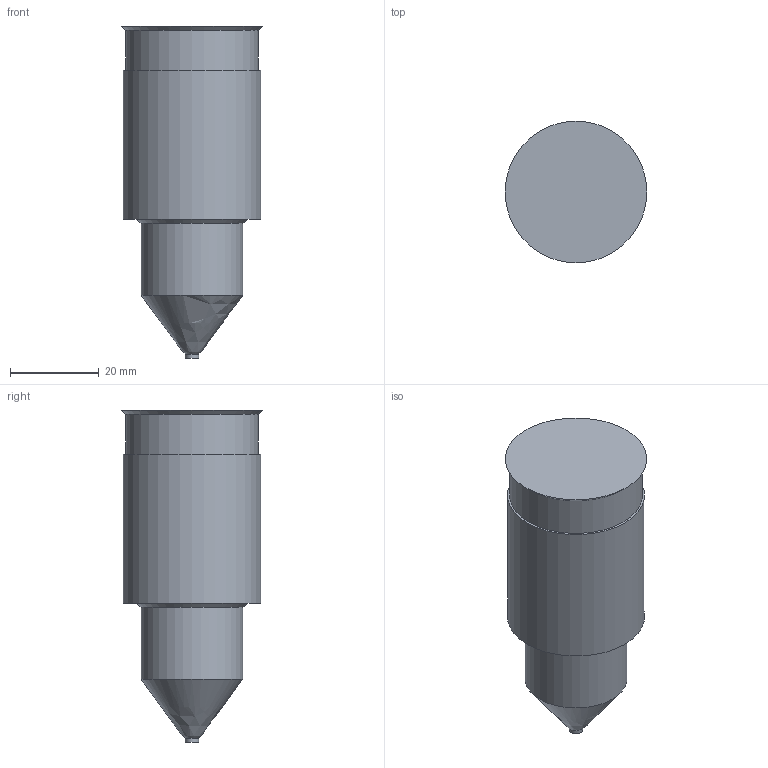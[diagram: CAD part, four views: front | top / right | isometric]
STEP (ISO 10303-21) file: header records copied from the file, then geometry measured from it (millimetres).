
FILE_DESCRIPTION(('STEP AP214'),'1');
FILE_NAME('SEDE IPM300-A.stp','2018-06-12T14:36:21',(' '),(' '),'Spatial InterOp 3D',' ',' ');
FILE_SCHEMA(('AUTOMOTIVE_DESIGN { 1 0 10303 214 1 1 1 1 }'));
Length unit declared in the file: millimetre
Products named in the file (1): 1
Bounding box: 32 x 32 x 75 mm (x, y, z)
Volume: 41841.9 mm3; surface area: 7356.7 mm2
Topology: 1 solids, 1 shells, 11 faces, 17 edges, 10 vertices
Faces by surface type: cylinder 4, plane 4, cone 2, revolution 1
Full cylindrical faces by diameter (mm): 3 x1, 23 x1, 30 x1, 31 x1
Entity records: 325 total; most frequent: DIRECTION 43, CARTESIAN_POINT 39, AXIS2_PLACEMENT_3D 21, EDGE_LOOP 20, ORIENTED_EDGE 20, FACE_OUTER_BOUND 16, STYLED_ITEM 11, PRESENTATION_STYLE_ASSIGNMENT 11
